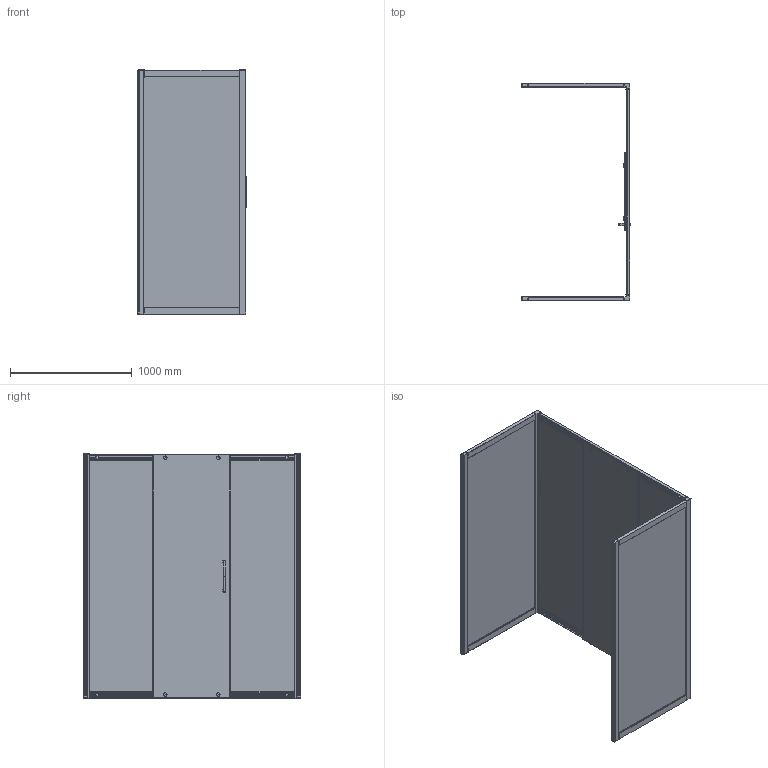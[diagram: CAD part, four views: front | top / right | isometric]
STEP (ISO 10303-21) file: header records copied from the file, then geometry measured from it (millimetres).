
FILE_DESCRIPTION(/* description */ (''),/* implementation_level */ '2;1');
FILE_NAME(/* name */ 'D:\Работа\Сергей\! Готово\Документация и модели всех серий\KUBELE динамические модели и набор документов\19 NEW\KÜBELE DE019R3U\KÜBELE DE019R3U-3D.stp',/* time_stamp */ '2019-06-17T18:52:47+03:00',/* author */ ('User'),/* organization */ (''),/* preprocessor_version */ 'ST-DEVELOPER v15.2',/* originating_system */ 'Autodesk Inventor 2014',/* authorisation */ '');
FILE_SCHEMA (('CONFIG_CONTROL_DESIGN'));
Products named in the file (1): KÜBELE DE019R3U-3D
Bounding box: 899.52 x 1785.2 x 2002.5 mm (x, y, z)
Volume: 61008581.2 mm3; surface area: 16268417.4 mm2
Topology: 1 solids, 27 shells, 2943 faces, 8306 edges, 5329 vertices
Faces by surface type: plane 1648, cylinder 871, bspline 186, torus 130, sphere 60, cone 48
Full cylindrical faces by diameter (mm): 3 x2, 3.7 x36, 8.4 x4, 9.5 x8, 10 x2, 13.2 x4, 14 x8, 16.5 x8, 18 x8, 19 x12, 22 x4, 28.7 x4, 30 x4
Entity records: 107467 total; most frequent: CARTESIAN_POINT 28615, ORIENTED_EDGE 16196, DIRECTION 15475, EDGE_CURVE 8095, LINE 5363, VECTOR 5363, VERTEX_POINT 5261, AXIS2_PLACEMENT_3D 5056
